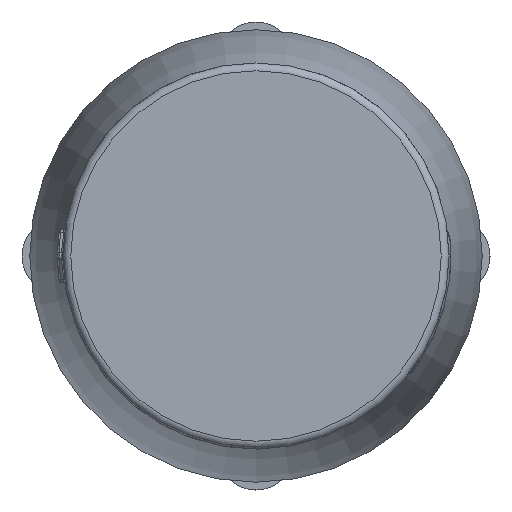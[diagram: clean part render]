
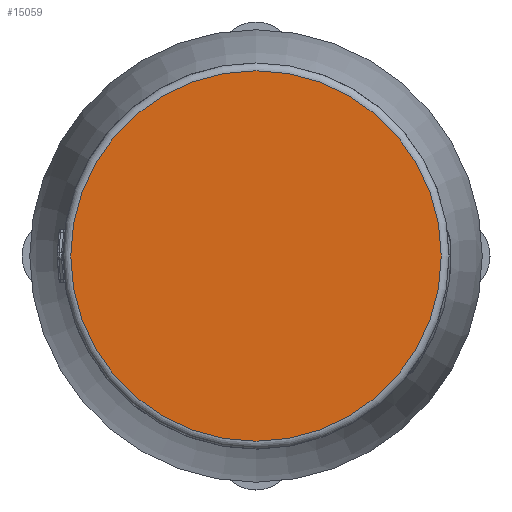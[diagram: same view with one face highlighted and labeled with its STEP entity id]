
A CAD part, left-side view. The second image highlights one B-rep face of the part: STEP entity #15059.
In plain terms, the highlighted planar face has unit normal (-1, 0, 0).
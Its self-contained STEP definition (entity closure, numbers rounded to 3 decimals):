
#8865 = AXIS2_PLACEMENT_3D ( 'NONE', #20621, #20611, #20550 ) ;
#13212 = VERTEX_POINT ( 'NONE', #44542 ) ;
#15059 = ADVANCED_FACE ( 'NONE', ( #42708 ), #19195, .T. ) ;
#16917 = EDGE_CURVE ( 'NONE', #13212, #13212, #44463, .T. ) ;
#18935 = AXIS2_PLACEMENT_3D ( 'NONE', #19913, #43944, #21808 ) ;
#19195 = PLANE ( 'NONE',  #8865 ) ;
#19913 = CARTESIAN_POINT ( 'NONE',  ( -183.5, 0., 0. ) ) ;
#20550 = DIRECTION ( 'NONE',  ( 0., 0., 1. ) ) ;
#20611 = DIRECTION ( 'NONE',  ( -1., 0., 0. ) ) ;
#20621 = CARTESIAN_POINT ( 'NONE',  ( -183.5, 0., 0. ) ) ;
#21808 = DIRECTION ( 'NONE',  ( 0., 0., 1. ) ) ;
#40896 = EDGE_LOOP ( 'NONE', ( #42626 ) ) ;
#42626 = ORIENTED_EDGE ( 'NONE', *, *, #16917, .T. ) ;
#42708 = FACE_OUTER_BOUND ( 'NONE', #40896, .T. ) ;
#43944 = DIRECTION ( 'NONE',  ( -1., 0., 0. ) ) ;
#44463 = CIRCLE ( 'NONE', #18935, 23.75 ) ;
#44542 = CARTESIAN_POINT ( 'NONE',  ( -183.5, 0., 23.75 ) ) ;
